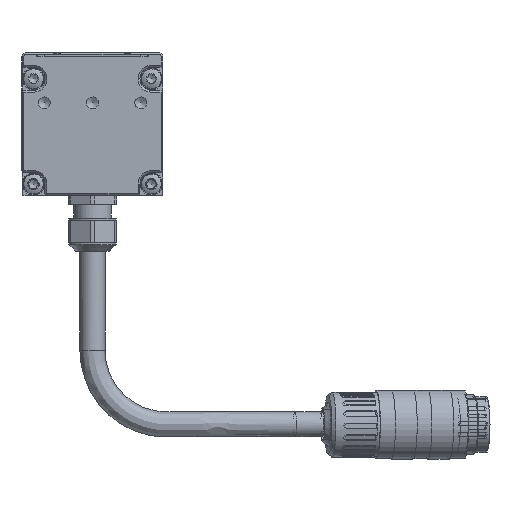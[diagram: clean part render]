
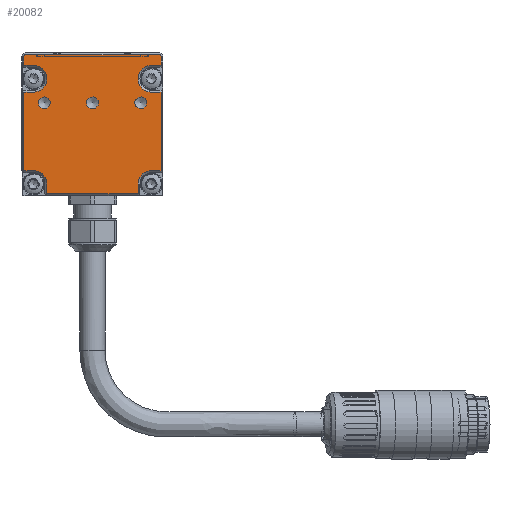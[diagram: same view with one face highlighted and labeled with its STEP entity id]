
A CAD part, left-side view. The second image highlights one B-rep face of the part: STEP entity #20082.
In plain terms, the highlighted planar face has unit normal (-1, 0, 0).
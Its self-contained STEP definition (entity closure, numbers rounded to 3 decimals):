
#880=LINE('',#27913,#1882);
#882=LINE('',#27917,#1884);
#886=LINE('',#27925,#1888);
#889=LINE('',#27931,#1891);
#891=LINE('',#27936,#1893);
#895=LINE('',#27944,#1897);
#897=LINE('',#27948,#1899);
#901=LINE('',#27957,#1903);
#903=LINE('',#27962,#1905);
#906=LINE('',#27970,#1908);
#909=LINE('',#27976,#1911);
#912=LINE('',#27984,#1914);
#916=LINE('',#27992,#1918);
#919=LINE('',#27999,#1921);
#1882=VECTOR('',#23214,1000.);
#1884=VECTOR('',#23218,1000.);
#1888=VECTOR('',#23224,1000.);
#1891=VECTOR('',#23229,1000.);
#1893=VECTOR('',#23235,1000.);
#1897=VECTOR('',#23241,1000.);
#1899=VECTOR('',#23247,1000.);
#1903=VECTOR('',#23257,1000.);
#1905=VECTOR('',#23265,1000.);
#1908=VECTOR('',#23274,1000.);
#1911=VECTOR('',#23283,1000.);
#1914=VECTOR('',#23292,1000.);
#1918=VECTOR('',#23302,1000.);
#1921=VECTOR('',#23311,1000.);
#2682=PLANE('',#21147);
#3923=ORIENTED_EDGE('',*,*,#7674,.T.);
#3924=ORIENTED_EDGE('',*,*,#7675,.T.);
#3925=ORIENTED_EDGE('',*,*,#7676,.T.);
#3926=ORIENTED_EDGE('',*,*,#7648,.T.);
#3927=ORIENTED_EDGE('',*,*,#7645,.T.);
#3928=ORIENTED_EDGE('',*,*,#7639,.T.);
#3929=ORIENTED_EDGE('',*,*,#7656,.T.);
#3930=ORIENTED_EDGE('',*,*,#7654,.T.);
#3931=ORIENTED_EDGE('',*,*,#7652,.T.);
#3932=ORIENTED_EDGE('',*,*,#7630,.T.);
#3933=ORIENTED_EDGE('',*,*,#7663,.T.);
#3934=ORIENTED_EDGE('',*,*,#7661,.T.);
#3935=ORIENTED_EDGE('',*,*,#7659,.T.);
#3936=ORIENTED_EDGE('',*,*,#7628,.T.);
#3937=ORIENTED_EDGE('',*,*,#7673,.F.);
#3938=ORIENTED_EDGE('',*,*,#7643,.T.);
#3939=ORIENTED_EDGE('',*,*,#7672,.F.);
#3940=ORIENTED_EDGE('',*,*,#7637,.T.);
#3941=ORIENTED_EDGE('',*,*,#7671,.T.);
#3942=ORIENTED_EDGE('',*,*,#7669,.T.);
#3943=ORIENTED_EDGE('',*,*,#7667,.T.);
#3944=ORIENTED_EDGE('',*,*,#7634,.T.);
#3945=ORIENTED_EDGE('',*,*,#7650,.T.);
#7628=EDGE_CURVE('',#9566,#9567,#880,.T.);
#7630=EDGE_CURVE('',#9569,#9568,#882,.T.);
#7634=EDGE_CURVE('',#9570,#9571,#886,.T.);
#7637=EDGE_CURVE('',#9572,#9573,#889,.T.);
#7639=EDGE_CURVE('',#9575,#9574,#891,.T.);
#7643=EDGE_CURVE('',#9576,#9577,#895,.T.);
#7645=EDGE_CURVE('',#9578,#9575,#897,.T.);
#7648=EDGE_CURVE('',#9579,#9578,#10697,.T.);
#7650=EDGE_CURVE('',#9571,#9579,#901,.T.);
#7652=EDGE_CURVE('',#9580,#9569,#903,.T.);
#7654=EDGE_CURVE('',#9581,#9580,#10698,.T.);
#7656=EDGE_CURVE('',#9574,#9581,#906,.T.);
#7659=EDGE_CURVE('',#9582,#9566,#909,.T.);
#7661=EDGE_CURVE('',#9583,#9582,#10699,.T.);
#7663=EDGE_CURVE('',#9568,#9583,#912,.T.);
#7667=EDGE_CURVE('',#9584,#9570,#916,.T.);
#7669=EDGE_CURVE('',#9585,#9584,#10700,.T.);
#7671=EDGE_CURVE('',#9573,#9585,#919,.T.);
#7672=EDGE_CURVE('',#9572,#9577,#10701,.T.);
#7673=EDGE_CURVE('',#9576,#9567,#10702,.T.);
#7674=EDGE_CURVE('',#9586,#9586,#10703,.T.);
#7675=EDGE_CURVE('',#9587,#9587,#10704,.T.);
#7676=EDGE_CURVE('',#9588,#9588,#10705,.T.);
#9566=VERTEX_POINT('',#27910);
#9567=VERTEX_POINT('',#27912);
#9568=VERTEX_POINT('',#27916);
#9569=VERTEX_POINT('',#27918);
#9570=VERTEX_POINT('',#27922);
#9571=VERTEX_POINT('',#27924);
#9572=VERTEX_POINT('',#27928);
#9573=VERTEX_POINT('',#27930);
#9574=VERTEX_POINT('',#27935);
#9575=VERTEX_POINT('',#27937);
#9576=VERTEX_POINT('',#27941);
#9577=VERTEX_POINT('',#27943);
#9578=VERTEX_POINT('',#27949);
#9579=VERTEX_POINT('',#27953);
#9580=VERTEX_POINT('',#27963);
#9581=VERTEX_POINT('',#27967);
#9582=VERTEX_POINT('',#27977);
#9583=VERTEX_POINT('',#27981);
#9584=VERTEX_POINT('',#27991);
#9585=VERTEX_POINT('',#27995);
#9586=VERTEX_POINT('',#28007);
#9587=VERTEX_POINT('',#28009);
#9588=VERTEX_POINT('',#28011);
#10697=CIRCLE('',#21122,3.6);
#10698=CIRCLE('',#21128,3.6);
#10699=CIRCLE('',#21134,3.6);
#10700=CIRCLE('',#21140,3.6);
#10701=CIRCLE('',#21144,0.5);
#10702=CIRCLE('',#21146,0.5);
#10703=CIRCLE('',#21148,1.621);
#10704=CIRCLE('',#21149,1.621);
#10705=CIRCLE('',#21150,1.621);
#11388=EDGE_LOOP('',(#3923));
#11389=EDGE_LOOP('',(#3924));
#11390=EDGE_LOOP('',(#3925));
#11391=EDGE_LOOP('',(#3926,#3927,#3928,#3929,#3930,#3931,#3932,#3933,#3934,
#3935,#3936,#3937,#3938,#3939,#3940,#3941,#3942,#3943,#3944,#3945));
#12478=FACE_BOUND('',#11388,.T.);
#12479=FACE_BOUND('',#11389,.T.);
#12480=FACE_BOUND('',#11390,.T.);
#12481=FACE_BOUND('',#11391,.T.);
#20082=ADVANCED_FACE('',(#12478,#12479,#12480,#12481),#2682,.F.);
#21122=AXIS2_PLACEMENT_3D('',#27954,#23252,#23253);
#21128=AXIS2_PLACEMENT_3D('',#27966,#23269,#23270);
#21134=AXIS2_PLACEMENT_3D('',#27980,#23287,#23288);
#21140=AXIS2_PLACEMENT_3D('',#27996,#23306,#23307);
#21144=AXIS2_PLACEMENT_3D('',#28002,#23316,#23317);
#21146=AXIS2_PLACEMENT_3D('',#28004,#23320,#23321);
#21147=AXIS2_PLACEMENT_3D('',#28005,#23322,#23323);
#21148=AXIS2_PLACEMENT_3D('',#28006,#23324,#23325);
#21149=AXIS2_PLACEMENT_3D('',#28008,#23326,#23327);
#21150=AXIS2_PLACEMENT_3D('',#28010,#23328,#23329);
#23214=DIRECTION('',(0.,0.,1.));
#23218=DIRECTION('',(0.,0.,1.));
#23224=DIRECTION('',(0.,0.,-1.));
#23229=DIRECTION('',(0.,0.,-1.));
#23235=DIRECTION('',(0.,-1.,0.));
#23241=DIRECTION('',(0.,1.,0.));
#23247=DIRECTION('',(0.,0.,-1.));
#23252=DIRECTION('',(1.,0.,0.));
#23253=DIRECTION('',(0.,1.,0.));
#23257=DIRECTION('',(0.,-1.,0.));
#23265=DIRECTION('',(0.,-1.,0.));
#23269=DIRECTION('',(1.,0.,0.));
#23270=DIRECTION('',(0.,1.,0.));
#23274=DIRECTION('',(0.,0.,1.));
#23283=DIRECTION('',(0.,-1.,0.));
#23287=DIRECTION('',(1.,0.,0.));
#23288=DIRECTION('',(0.,1.,0.));
#23292=DIRECTION('',(0.,1.,0.));
#23302=DIRECTION('',(0.,1.,0.));
#23306=DIRECTION('',(1.,0.,0.));
#23307=DIRECTION('',(0.,1.,0.));
#23311=DIRECTION('',(0.,-1.,0.));
#23316=DIRECTION('',(1.,0.,0.));
#23317=DIRECTION('',(0.,1.,0.));
#23320=DIRECTION('',(1.,0.,0.));
#23321=DIRECTION('',(0.,1.,0.));
#23322=DIRECTION('',(1.,0.,0.));
#23323=DIRECTION('',(0.,1.,0.));
#23324=DIRECTION('',(1.,0.,0.));
#23325=DIRECTION('',(0.,-1.,0.));
#23326=DIRECTION('',(1.,0.,0.));
#23327=DIRECTION('',(0.,-1.,0.));
#23328=DIRECTION('',(1.,0.,0.));
#23329=DIRECTION('',(0.,-1.,0.));
#27910=CARTESIAN_POINT('',(-1414.998,-18.5,35.119));
#27912=CARTESIAN_POINT('',(-1414.998,-18.5,37.519));
#27913=CARTESIAN_POINT('',(-1414.998,-18.5,0.019));
#27916=CARTESIAN_POINT('',(-1414.998,-18.5,27.919));
#27917=CARTESIAN_POINT('',(-1414.998,-18.5,0.019));
#27918=CARTESIAN_POINT('',(-1414.998,-18.5,6.719));
#27922=CARTESIAN_POINT('',(-1414.998,18.5,27.919));
#27924=CARTESIAN_POINT('',(-1414.998,18.5,6.719));
#27925=CARTESIAN_POINT('',(-1414.998,18.5,0.019));
#27928=CARTESIAN_POINT('',(-1414.998,18.5,37.519));
#27930=CARTESIAN_POINT('',(-1414.998,18.5,35.119));
#27931=CARTESIAN_POINT('',(-1414.998,18.5,0.019));
#27935=CARTESIAN_POINT('',(-1414.998,-12.3,0.519));
#27936=CARTESIAN_POINT('',(-1414.998,-12.3,0.519));
#27937=CARTESIAN_POINT('',(-1414.998,12.3,0.519));
#27941=CARTESIAN_POINT('',(-1414.998,-18.,38.019));
#27943=CARTESIAN_POINT('',(-1414.998,18.,38.019));
#27944=CARTESIAN_POINT('',(-1414.998,-19.,38.019));
#27948=CARTESIAN_POINT('',(-1414.998,12.3,0.019));
#27949=CARTESIAN_POINT('',(-1414.998,12.3,3.119));
#27953=CARTESIAN_POINT('',(-1414.998,15.9,6.719));
#27954=CARTESIAN_POINT('',(-1414.998,15.9,3.119));
#27957=CARTESIAN_POINT('',(-1414.998,-19.,6.719));
#27962=CARTESIAN_POINT('',(-1414.998,-19.,6.719));
#27963=CARTESIAN_POINT('',(-1414.998,-15.9,6.719));
#27966=CARTESIAN_POINT('',(-1414.998,-15.9,3.119));
#27967=CARTESIAN_POINT('',(-1414.998,-12.3,3.119));
#27970=CARTESIAN_POINT('',(-1414.998,-12.3,0.019));
#27976=CARTESIAN_POINT('',(-1414.998,-19.,35.119));
#27977=CARTESIAN_POINT('',(-1414.998,-15.9,35.119));
#27980=CARTESIAN_POINT('',(-1414.998,-15.9,31.519));
#27981=CARTESIAN_POINT('',(-1414.998,-15.9,27.919));
#27984=CARTESIAN_POINT('',(-1414.998,-19.,27.919));
#27991=CARTESIAN_POINT('',(-1414.998,15.9,27.919));
#27992=CARTESIAN_POINT('',(-1414.998,-19.,27.919));
#27995=CARTESIAN_POINT('',(-1414.998,15.9,35.119));
#27996=CARTESIAN_POINT('',(-1414.998,15.9,31.519));
#27999=CARTESIAN_POINT('',(-1414.998,-19.,35.119));
#28002=CARTESIAN_POINT('',(-1414.998,18.,37.519));
#28004=CARTESIAN_POINT('',(-1414.998,-18.,37.519));
#28005=CARTESIAN_POINT('',(-1414.998,-19.,0.019));
#28006=CARTESIAN_POINT('',(-1414.998,13.,25.019));
#28007=CARTESIAN_POINT('',(-1414.998,11.379,25.019));
#28008=CARTESIAN_POINT('',(-1414.998,0.,25.019));
#28009=CARTESIAN_POINT('',(-1414.998,-1.621,25.019));
#28010=CARTESIAN_POINT('',(-1414.998,-13.,25.019));
#28011=CARTESIAN_POINT('',(-1414.998,-14.621,25.019));
